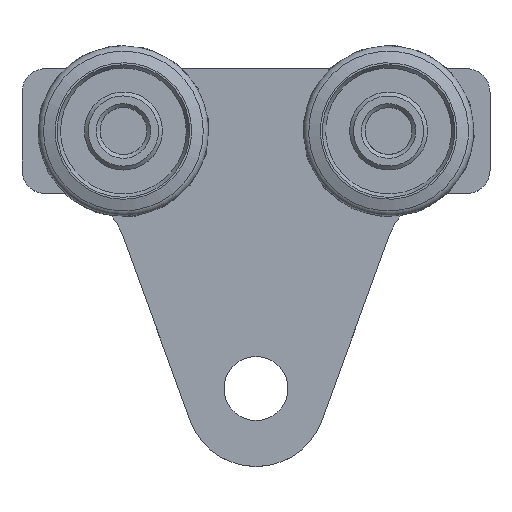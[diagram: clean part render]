
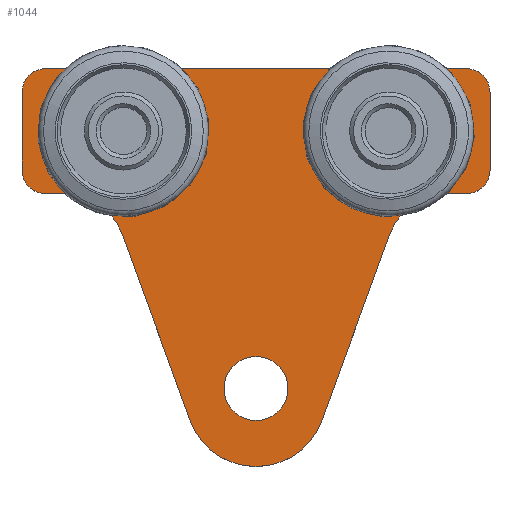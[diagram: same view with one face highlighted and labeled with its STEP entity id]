
A CAD part, top view. The second image highlights one B-rep face of the part: STEP entity #1044.
In plain terms, the highlighted planar face has unit normal (0, 0, 1).
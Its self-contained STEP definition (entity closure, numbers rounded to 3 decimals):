
#96=LINE('',#1575,#166);
#100=LINE('',#1583,#170);
#104=LINE('',#1594,#174);
#106=LINE('',#1599,#176);
#111=LINE('',#1613,#181);
#114=LINE('',#1618,#184);
#118=LINE('',#1631,#188);
#122=LINE('',#1643,#192);
#126=LINE('',#1655,#196);
#130=LINE('',#1667,#200);
#134=LINE('',#1679,#204);
#138=LINE('',#1691,#208);
#142=LINE('',#1702,#212);
#166=VECTOR('',#1234,6.1);
#170=VECTOR('',#1240,6.3);
#174=VECTOR('',#1252,6.3);
#176=VECTOR('',#1256,6.3);
#181=VECTOR('',#1269,6.3);
#184=VECTOR('',#1274,6.1);
#188=VECTOR('',#1286,2.358);
#192=VECTOR('',#1298,25.343);
#196=VECTOR('',#1310,25.343);
#200=VECTOR('',#1322,2.358);
#204=VECTOR('',#1334,10.);
#208=VECTOR('',#1346,54.);
#212=VECTOR('',#1358,10.);
#250=PLANE('',#1133);
#275=FACE_BOUND('',#395,.T.);
#276=FACE_BOUND('',#396,.T.);
#277=FACE_BOUND('',#397,.T.);
#326=FACE_OUTER_BOUND('',#394,.T.);
#394=EDGE_LOOP('',(#853,#854,#855,#856,#857,#858,#859,#860,#861,#862,#863,
#864,#865,#866));
#395=EDGE_LOOP('',(#867));
#396=EDGE_LOOP('',(#868,#869,#870,#871));
#397=EDGE_LOOP('',(#872,#873,#874,#875));
#462=CIRCLE('',#1091,4.1);
#463=CIRCLE('',#1095,3.05);
#465=CIRCLE('',#1100,3.05);
#467=CIRCLE('',#1105,3.);
#469=CIRCLE('',#1109,8.);
#471=CIRCLE('',#1113,9.);
#473=CIRCLE('',#1117,8.);
#475=CIRCLE('',#1121,3.);
#477=CIRCLE('',#1125,3.);
#479=CIRCLE('',#1129,3.);
#512=VERTEX_POINT('',#1570);
#513=VERTEX_POINT('',#1573);
#514=VERTEX_POINT('',#1574);
#517=VERTEX_POINT('',#1582);
#519=VERTEX_POINT('',#1588);
#521=VERTEX_POINT('',#1597);
#522=VERTEX_POINT('',#1598);
#525=VERTEX_POINT('',#1606);
#527=VERTEX_POINT('',#1612);
#529=VERTEX_POINT('',#1621);
#530=VERTEX_POINT('',#1622);
#533=VERTEX_POINT('',#1630);
#535=VERTEX_POINT('',#1636);
#537=VERTEX_POINT('',#1642);
#539=VERTEX_POINT('',#1648);
#541=VERTEX_POINT('',#1654);
#543=VERTEX_POINT('',#1660);
#545=VERTEX_POINT('',#1666);
#547=VERTEX_POINT('',#1672);
#549=VERTEX_POINT('',#1678);
#551=VERTEX_POINT('',#1684);
#553=VERTEX_POINT('',#1690);
#555=VERTEX_POINT('',#1696);
#609=EDGE_CURVE('',#512,#512,#462,.T.);
#610=EDGE_CURVE('',#513,#514,#96,.T.);
#614=EDGE_CURVE('',#514,#517,#100,.T.);
#617=EDGE_CURVE('',#517,#519,#463,.T.);
#620=EDGE_CURVE('',#519,#513,#104,.T.);
#622=EDGE_CURVE('',#521,#522,#106,.T.);
#626=EDGE_CURVE('',#522,#525,#465,.T.);
#629=EDGE_CURVE('',#525,#527,#111,.T.);
#632=EDGE_CURVE('',#527,#521,#114,.T.);
#634=EDGE_CURVE('',#529,#530,#467,.T.);
#638=EDGE_CURVE('',#530,#533,#118,.T.);
#641=EDGE_CURVE('',#533,#535,#469,.T.);
#644=EDGE_CURVE('',#535,#537,#122,.T.);
#647=EDGE_CURVE('',#537,#539,#471,.T.);
#650=EDGE_CURVE('',#539,#541,#126,.T.);
#653=EDGE_CURVE('',#541,#543,#473,.T.);
#656=EDGE_CURVE('',#543,#545,#130,.T.);
#659=EDGE_CURVE('',#545,#547,#475,.T.);
#662=EDGE_CURVE('',#547,#549,#134,.T.);
#665=EDGE_CURVE('',#549,#551,#477,.T.);
#668=EDGE_CURVE('',#551,#553,#138,.T.);
#671=EDGE_CURVE('',#553,#555,#479,.T.);
#674=EDGE_CURVE('',#555,#529,#142,.T.);
#853=ORIENTED_EDGE('',*,*,#634,.F.);
#854=ORIENTED_EDGE('',*,*,#674,.F.);
#855=ORIENTED_EDGE('',*,*,#671,.F.);
#856=ORIENTED_EDGE('',*,*,#668,.F.);
#857=ORIENTED_EDGE('',*,*,#665,.F.);
#858=ORIENTED_EDGE('',*,*,#662,.F.);
#859=ORIENTED_EDGE('',*,*,#659,.F.);
#860=ORIENTED_EDGE('',*,*,#656,.F.);
#861=ORIENTED_EDGE('',*,*,#653,.F.);
#862=ORIENTED_EDGE('',*,*,#650,.F.);
#863=ORIENTED_EDGE('',*,*,#647,.F.);
#864=ORIENTED_EDGE('',*,*,#644,.F.);
#865=ORIENTED_EDGE('',*,*,#641,.F.);
#866=ORIENTED_EDGE('',*,*,#638,.F.);
#867=ORIENTED_EDGE('',*,*,#609,.T.);
#868=ORIENTED_EDGE('',*,*,#610,.T.);
#869=ORIENTED_EDGE('',*,*,#614,.T.);
#870=ORIENTED_EDGE('',*,*,#617,.T.);
#871=ORIENTED_EDGE('',*,*,#620,.T.);
#872=ORIENTED_EDGE('',*,*,#622,.T.);
#873=ORIENTED_EDGE('',*,*,#626,.T.);
#874=ORIENTED_EDGE('',*,*,#629,.T.);
#875=ORIENTED_EDGE('',*,*,#632,.T.);
#1044=ADVANCED_FACE('',(#326,#275,#276,#277),#250,.T.);
#1091=AXIS2_PLACEMENT_3D('',#1571,#1230,#1231);
#1095=AXIS2_PLACEMENT_3D('',#1589,#1245,#1246);
#1100=AXIS2_PLACEMENT_3D('',#1607,#1262,#1263);
#1105=AXIS2_PLACEMENT_3D('',#1623,#1278,#1279);
#1109=AXIS2_PLACEMENT_3D('',#1637,#1291,#1292);
#1113=AXIS2_PLACEMENT_3D('',#1649,#1303,#1304);
#1117=AXIS2_PLACEMENT_3D('',#1661,#1315,#1316);
#1121=AXIS2_PLACEMENT_3D('',#1673,#1327,#1328);
#1125=AXIS2_PLACEMENT_3D('',#1685,#1339,#1340);
#1129=AXIS2_PLACEMENT_3D('',#1697,#1351,#1352);
#1133=AXIS2_PLACEMENT_3D('',#1705,#1362,#1363);
#1230=DIRECTION('center_axis',(0.,0.,-1.));
#1231=DIRECTION('ref_axis',(1.,0.,0.));
#1234=DIRECTION('',(1.,0.,0.));
#1240=DIRECTION('',(0.,-1.,0.));
#1245=DIRECTION('center_axis',(0.,0.,-1.));
#1246=DIRECTION('ref_axis',(1.,0.,0.));
#1252=DIRECTION('',(0.,1.,0.));
#1256=DIRECTION('',(0.,-1.,0.));
#1262=DIRECTION('center_axis',(0.,0.,-1.));
#1263=DIRECTION('ref_axis',(1.,0.,0.));
#1269=DIRECTION('',(0.,1.,0.));
#1274=DIRECTION('',(1.,0.,0.));
#1278=DIRECTION('center_axis',(0.,0.,-1.));
#1279=DIRECTION('ref_axis',(0.,1.,0.));
#1286=DIRECTION('',(1.,0.,0.));
#1291=DIRECTION('center_axis',(0.,0.,1.));
#1292=DIRECTION('ref_axis',(0.,1.,0.));
#1298=DIRECTION('',(0.342,0.94,0.));
#1303=DIRECTION('center_axis',(0.,0.,-1.));
#1304=DIRECTION('ref_axis',(0.94,0.342,0.));
#1310=DIRECTION('',(0.342,-0.94,0.));
#1315=DIRECTION('center_axis',(0.,0.,1.));
#1316=DIRECTION('ref_axis',(0.94,0.342,0.));
#1322=DIRECTION('',(1.,0.,0.));
#1327=DIRECTION('center_axis',(0.,0.,-1.));
#1328=DIRECTION('ref_axis',(1.,0.,0.));
#1334=DIRECTION('',(0.,-1.,0.));
#1339=DIRECTION('center_axis',(0.,0.,-1.));
#1340=DIRECTION('ref_axis',(0.,-1.,0.));
#1346=DIRECTION('',(-1.,0.,0.));
#1351=DIRECTION('center_axis',(0.,0.,-1.));
#1352=DIRECTION('ref_axis',(-1.,0.,0.));
#1358=DIRECTION('',(0.,1.,0.));
#1362=DIRECTION('center_axis',(0.,0.,1.));
#1363=DIRECTION('ref_axis',(1.,0.,0.));
#1570=CARTESIAN_POINT('',(4.1,33.,3.));
#1571=CARTESIAN_POINT('Origin',(0.,33.,3.));
#1573=CARTESIAN_POINT('',(-20.05,6.3,3.));
#1574=CARTESIAN_POINT('',(-13.95,6.3,3.));
#1575=CARTESIAN_POINT('',(-10.025,6.3,3.));
#1582=CARTESIAN_POINT('',(-13.95,0.,3.));
#1583=CARTESIAN_POINT('',(-13.95,8.332,3.));
#1588=CARTESIAN_POINT('',(-20.05,0.,3.));
#1589=CARTESIAN_POINT('Origin',(-17.,0.,3.));
#1594=CARTESIAN_POINT('',(-20.05,5.182,3.));
#1597=CARTESIAN_POINT('',(20.05,6.3,3.));
#1598=CARTESIAN_POINT('',(20.05,0.,3.));
#1599=CARTESIAN_POINT('',(20.05,8.332,3.));
#1606=CARTESIAN_POINT('',(13.95,0.,3.));
#1607=CARTESIAN_POINT('Origin',(17.,0.,3.));
#1612=CARTESIAN_POINT('',(13.95,6.3,3.));
#1613=CARTESIAN_POINT('',(13.95,5.182,3.));
#1618=CARTESIAN_POINT('',(6.975,6.3,3.));
#1621=CARTESIAN_POINT('',(-30.,5.,3.));
#1622=CARTESIAN_POINT('',(-27.,8.,3.));
#1623=CARTESIAN_POINT('Origin',(-27.,5.,3.));
#1630=CARTESIAN_POINT('',(-24.642,8.,3.));
#1631=CARTESIAN_POINT('',(-24.642,8.,3.));
#1636=CARTESIAN_POINT('',(-17.125,13.264,3.));
#1637=CARTESIAN_POINT('Origin',(-24.642,16.,3.));
#1642=CARTESIAN_POINT('',(-8.457,37.078,3.));
#1643=CARTESIAN_POINT('',(-8.457,37.078,3.));
#1648=CARTESIAN_POINT('',(8.457,37.078,3.));
#1649=CARTESIAN_POINT('Origin',(0.,34.,3.));
#1654=CARTESIAN_POINT('',(17.125,13.264,3.));
#1655=CARTESIAN_POINT('',(17.125,13.264,3.));
#1660=CARTESIAN_POINT('',(24.642,8.,3.));
#1661=CARTESIAN_POINT('Origin',(24.642,16.,3.));
#1666=CARTESIAN_POINT('',(27.,8.,3.));
#1667=CARTESIAN_POINT('',(27.,8.,3.));
#1672=CARTESIAN_POINT('',(30.,5.,3.));
#1673=CARTESIAN_POINT('Origin',(27.,5.,3.));
#1678=CARTESIAN_POINT('',(30.,-5.,3.));
#1679=CARTESIAN_POINT('',(30.,-5.,3.));
#1684=CARTESIAN_POINT('',(27.,-8.,3.));
#1685=CARTESIAN_POINT('Origin',(27.,-5.,3.));
#1690=CARTESIAN_POINT('',(-27.,-8.,3.));
#1691=CARTESIAN_POINT('',(-27.,-8.,3.));
#1696=CARTESIAN_POINT('',(-30.,-5.,3.));
#1697=CARTESIAN_POINT('Origin',(-27.,-5.,3.));
#1702=CARTESIAN_POINT('',(-30.,5.,3.));
#1705=CARTESIAN_POINT('Origin',(0.,10.365,
3.));
